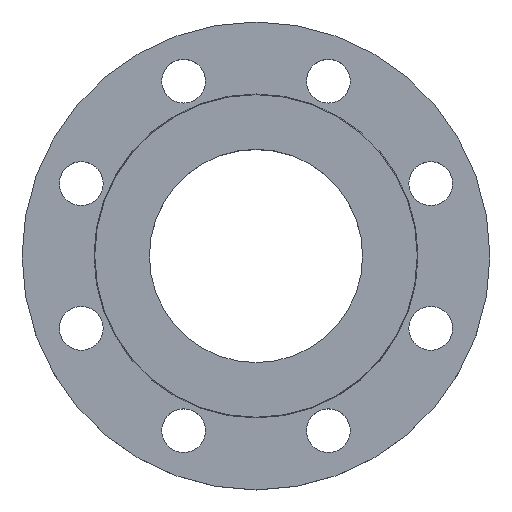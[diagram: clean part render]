
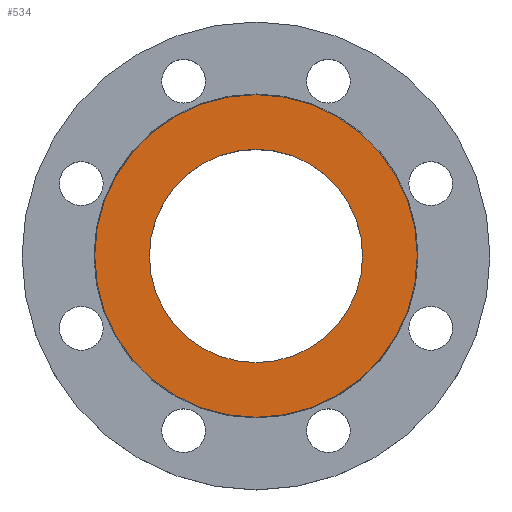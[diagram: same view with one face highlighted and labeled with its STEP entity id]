
A CAD part, top view. The second image highlights one B-rep face of the part: STEP entity #534.
In plain terms, the highlighted planar face has unit normal (0, 0, 1).
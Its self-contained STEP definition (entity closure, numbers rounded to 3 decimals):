
#79 = CIRCLE ( 'NONE', #81, 53.55 ) ;
#81 = AXIS2_PLACEMENT_3D ( 'NONE', #916, #917, #918 ) ;
#151 = EDGE_CURVE ( 'NONE', #676, #679, #79, .T. ) ;
#190 = DIRECTION ( 'NONE',  ( -1., 0., 0. ) ) ;
#191 = DIRECTION ( 'NONE',  ( 0., 0., -1. ) ) ;
#193 = CARTESIAN_POINT ( 'NONE',  ( 0., 0., 0. ) ) ;
#241 = CARTESIAN_POINT ( 'NONE',  ( -81., 0., 0. ) ) ;
#275 = CIRCLE ( 'NONE', #837, 81. ) ;
#299 = CARTESIAN_POINT ( 'NONE',  ( 53.55, 0., 0. ) ) ;
#301 = CARTESIAN_POINT ( 'NONE',  ( 81., 0., 0. ) ) ;
#302 = CARTESIAN_POINT ( 'NONE',  ( -53.55, 0., 0. ) ) ;
#337 = DIRECTION ( 'NONE',  ( -1., 0., 0. ) ) ;
#338 = DIRECTION ( 'NONE',  ( 0., 0., -1. ) ) ;
#340 = CARTESIAN_POINT ( 'NONE',  ( 0., 0., 0. ) ) ;
#355 = AXIS2_PLACEMENT_3D ( 'NONE', #961, #953, #954 ) ;
#409 = DIRECTION ( 'NONE',  ( -1., 0., 0. ) ) ;
#410 = DIRECTION ( 'NONE',  ( 0., 0., -1. ) ) ;
#411 = CARTESIAN_POINT ( 'NONE',  ( 0., 0., 0. ) ) ;
#534 = ADVANCED_FACE ( 'NONE', ( #564, #559 ), #562, .T. ) ;
#559 = FACE_OUTER_BOUND ( 'NONE', #665, .T. ) ;
#562 = PLANE ( 'NONE',  #355 ) ;
#564 = FACE_BOUND ( 'NONE', #741, .T. ) ;
#594 = AXIS2_PLACEMENT_3D ( 'NONE', #340, #338, #337 ) ;
#597 = CIRCLE ( 'NONE', #656, 53.55 ) ;
#622 = EDGE_CURVE ( 'NONE', #679, #676, #597, .T. ) ;
#650 = EDGE_CURVE ( 'NONE', #747, #677, #884, .T. ) ;
#656 = AXIS2_PLACEMENT_3D ( 'NONE', #411, #410, #409 ) ;
#665 = EDGE_LOOP ( 'NONE', ( #1108, #1109 ) ) ;
#676 = VERTEX_POINT ( 'NONE', #302 ) ;
#677 = VERTEX_POINT ( 'NONE', #301 ) ;
#679 = VERTEX_POINT ( 'NONE', #299 ) ;
#741 = EDGE_LOOP ( 'NONE', ( #1103, #1106 ) ) ;
#747 = VERTEX_POINT ( 'NONE', #241 ) ;
#814 = EDGE_CURVE ( 'NONE', #677, #747, #275, .T. ) ;
#837 = AXIS2_PLACEMENT_3D ( 'NONE', #193, #191, #190 ) ;
#884 = CIRCLE ( 'NONE', #594, 81. ) ;
#916 = CARTESIAN_POINT ( 'NONE',  ( 0., 0., 0. ) ) ;
#917 = DIRECTION ( 'NONE',  ( 0., 0., -1. ) ) ;
#918 = DIRECTION ( 'NONE',  ( -1., 0., 0. ) ) ;
#953 = DIRECTION ( 'NONE',  ( 0., 0., 1. ) ) ;
#954 = DIRECTION ( 'NONE',  ( 1., 0., 0. ) ) ;
#961 = CARTESIAN_POINT ( 'NONE',  ( 0., 0., 0. ) ) ;
#1103 = ORIENTED_EDGE ( 'NONE', *, *, #151, .T. ) ;
#1106 = ORIENTED_EDGE ( 'NONE', *, *, #622, .T. ) ;
#1108 = ORIENTED_EDGE ( 'NONE', *, *, #650, .F. ) ;
#1109 = ORIENTED_EDGE ( 'NONE', *, *, #814, .F. ) ;
